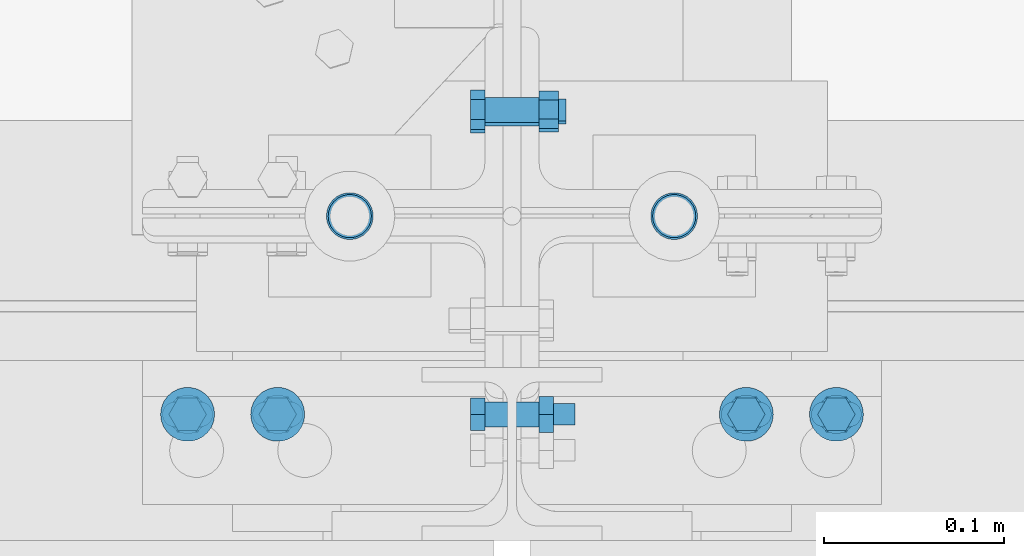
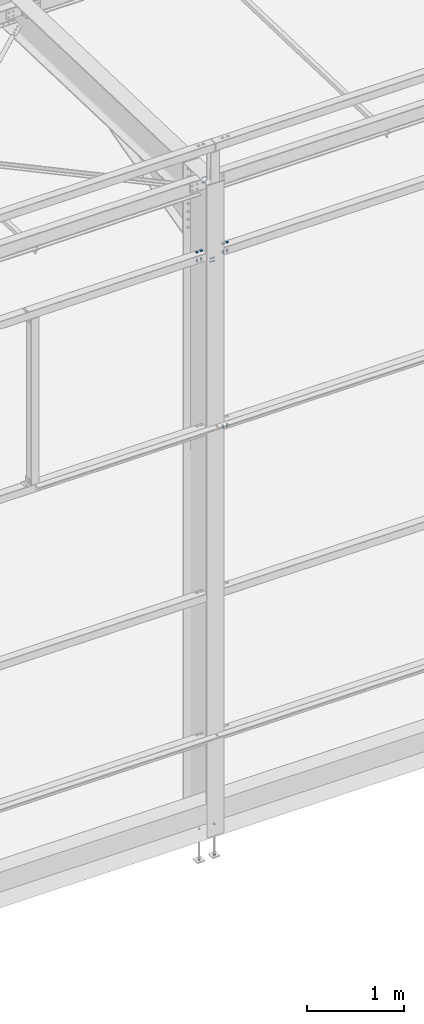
# One storey, part 207 of 362: 11 mechanical fasteners.
"""IFC2X3 building model written with IfcOpenShell, lengths in millimetres."""

from ifc_helpers import new_model, si_unit, frame, frame_2d, origin_with_axes, origin_2d_with_axis, place, context, subcontext, project, spatial, polyline, circle_curve, parameter, trimmed, segment, composite_curve, circle, outline, extrude, source, transform, mapped, material, type_object, element, save


model = new_model("IFC2X3")

# Units and contexts
model_context = context("Model", 3, precision=1e-05, world=origin_with_axes())
body_context = subcontext(model_context, "Body", "Model", "MODEL_VIEW")
ifc_project = project(units=[si_unit("LENGTHUNIT", "METRE", prefix="MILLI"), si_unit("AREAUNIT", "SQUARE_METRE"), si_unit("VOLUMEUNIT", "CUBIC_METRE"), si_unit("MASSUNIT", "GRAM", prefix="KILO"), si_unit("TIMEUNIT", "SECOND"), si_unit("PLANEANGLEUNIT", "RADIAN"), si_unit("SOLIDANGLEUNIT", "STERADIAN"), si_unit("THERMODYNAMICTEMPERATUREUNIT", "DEGREE_CELSIUS"), si_unit("LUMINOUSINTENSITYUNIT", "LUMEN")], contexts=[model_context])

# Site, building, storey
site_placement = place(None, origin_with_axes())
site = spatial("IfcSite", under=ifc_project, at=site_placement, Name="Undefined", CompositionType="ELEMENT")
building_placement = place(site_placement, origin_with_axes())
building = spatial("IfcBuilding", under=site, at=building_placement, Name="Undefined", CompositionType="ELEMENT")
storey_placement = place(building_placement, origin_with_axes())
storey = spatial("IfcBuildingStorey", under=building, at=storey_placement, Name="Undefined", CompositionType="ELEMENT", Elevation=0.0)

# Mechanical fasteners
ifc_material_1 = material(Name="6.8")
mechanical_fastener_type = type_object("IfcMechanicalFastenerType", Name="Bolt assembly")
shared_shape_1 = source(origin_with_axes(), body_context, "Body", "SweptSolid", [
    extrude(circle(Radius=15.0, at=origin_2d_with_axis()), frame((0.0, 0.0, 0.0), z_axis=(0.0, 1.0, 0.0), x_axis=(1.0, 0.0, 0.0)), (0.0, 0.0, 1.0), 4.1),
])
for number, where, z_axis, x_axis, name in (
    (1, (4000.00000272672, -110.000005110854, 7200.0), (0.0, 1.0, 0.0), (1.0, 0.0, 0.0), "Bolt assembly"),
    (2, (4360.00000272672, -110.000005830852, 7200.0), (0.0, -1.0, 0.0), (-1.0, 0.0, 0.0), "Bolt assembly"),
):
    element("IfcMechanicalFastener", number, at=place(storey_placement, frame(where, z_axis=z_axis, x_axis=x_axis)), inside=storey, type_object=mechanical_fastener_type, material=ifc_material_1, Name=name, NominalDiameter=30.0, NominalLength=4.0, context=body_context, shape_type="MappedRepresentation", body=[
        mapped(shared_shape_1, transform((0.0, 0.0, 0.0))),
        mapped(shared_shape_1, transform((49.9999999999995, 0.0, -3.63797880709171e-12))),
    ])
ifc_material_2 = material(Name="8.8-SB-ZINGUE")
shared_shape_2 = source(origin_with_axes(), body_context, "Body", "SweptSolid", [
    extrude(circle(Radius=7.0, at=origin_2d_with_axis()), frame((0.0, -3.89999843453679, 0.0), z_axis=(0.0, 1.0, 0.0), x_axis=(1.0, 0.0, 0.0)), (0.0, 0.0, 1.0), 4.0),
    extrude(outline(composite_curve([segment(polyline([(-7.0, 7.0), (7.0, 7.0)]), True, "CONTINUOUS"), segment(trimmed(circle_curve(frame_2d((7.0, 0.0), x_axis=(0.0, 1.0)), 7.0), [parameter(0.0)], [parameter(3.14159265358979)], False, "PARAMETER"), True, "CONTINUOUS"), segment(polyline([(7.0, -7.0), (-7.0, -7.0)]), True, "CONTINUOUS"), segment(trimmed(circle_curve(frame_2d((-7.0, 0.0), x_axis=(0.0, -1.0)), 7.0), [parameter(0.0)], [parameter(3.14159265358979)], False, "PARAMETER"), True, "DISCONTINUOUS")], self_intersect=False)), frame((0.0, -0.100011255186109, 0.0), z_axis=(0.0, 1.0, 0.0), x_axis=(1.0, 0.0, 0.0)), (0.0, 0.0, 1.0), 10.1),
    extrude(outline(polyline([(10.39230484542, 0.0), (5.19615242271, 9.00000000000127), (-5.19615242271, 9.00000000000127), (-10.39230484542, 0.0), (-5.19615242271, -9.00000000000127), (5.19615242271, -9.00000000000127), (10.39230484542, 0.0)])), frame((0.0, -11.9199984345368, 0.0), z_axis=(0.0, 1.0, 0.0), x_axis=(1.0, 0.0, 0.0)), (0.0, 0.0, 1.0), 7.92),
    extrude(circle(Radius=6.0, at=origin_2d_with_axis()), frame((0.0, -3.99999923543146, 0.0), z_axis=(0.0, 1.0, 0.0), x_axis=(1.0, 0.0, 0.0)), (0.0, 0.0, 1.0), 40.0),
    extrude(circle(Radius=10.8, at=origin_2d_with_axis()), frame((0.0, 10.0000000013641, 0.0), z_axis=(0.0, 1.0, 0.0), x_axis=(1.0, 0.0, 0.0)), (0.0, 0.0, 1.0), 3.96),
    extrude(outline(polyline([(11.5008173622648, 0.0), (5.7504086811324, 9.96000000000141), (-5.7504086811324, 9.96000000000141), (-11.5008173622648, 0.0), (-5.7504086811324, -9.96000000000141), (5.7504086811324, -9.96000000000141), (11.5008173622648, 0.0)])), frame((0.0, 13.96, 0.0), z_axis=(0.0, 1.0, 0.0), x_axis=(1.0, 0.0, 0.0)), (0.0, 0.0, 1.0), 7.92),
])
mechanical_fastener_1_placement = place(storey_placement, frame((4360.00000272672, -110.000005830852, 4900.0), z_axis=(0.0, -1.0, 0.0), x_axis=(-1.0, 0.0, 0.0)))
element("IfcMechanicalFastener", 3, at=mechanical_fastener_1_placement, inside=storey, type_object=mechanical_fastener_type, material=ifc_material_2, Name="Bolt assembly", NominalDiameter=12.0, NominalLength=40.0, context=body_context, shape_type="MappedRepresentation", body=[
    mapped(shared_shape_2, transform((0.0, 0.0, 0.0))),
    mapped(shared_shape_2, transform((49.9999999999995, 0.0, -3.63797880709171e-12))),
])
shared_shape_3 = source(origin_with_axes(), body_context, "Body", "SweptSolid", [
    extrude(circle(Radius=7.0, at=origin_2d_with_axis()), frame((0.0, -5.10036182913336, 0.0), z_axis=(0.0, 1.0, 0.0), x_axis=(1.0, 0.0, 0.0)), (0.0, 0.0, 1.0), 10.2),
    extrude(circle(Radius=7.0, at=origin_2d_with_axis()), frame((0.0, 4.9000000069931, 0.0), z_axis=(0.0, 1.0, 0.0), x_axis=(1.0, 0.0, 0.0)), (0.0, 0.0, 1.0), 10.1),
    extrude(circle(Radius=7.0, at=origin_2d_with_axis()), frame((0.0, -14.899999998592, 0.0), z_axis=(0.0, 1.0, 0.0), x_axis=(1.0, 0.0, 0.0)), (0.0, 0.0, 1.0), 10.0),
    extrude(outline(polyline([(10.39230484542, 0.0), (5.19615242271, 9.00000000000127), (-5.19615242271, 9.00000000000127), (-10.39230484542, 0.0), (-5.19615242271, -9.00000000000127), (5.19615242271, -9.00000000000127), (10.39230484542, 0.0)])), frame((0.0, -22.919999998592, 0.0), z_axis=(0.0, 1.0, 0.0), x_axis=(1.0, 0.0, 0.0)), (0.0, 0.0, 1.0), 7.92),
    extrude(circle(Radius=6.0, at=origin_2d_with_axis()), frame((0.0, -14.999999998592, 0.0), z_axis=(0.0, 1.0, 0.0), x_axis=(1.0, 0.0, 0.0)), (0.0, 0.0, 1.0), 50.0),
    extrude(outline(polyline([(11.5008173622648, 0.0), (5.7504086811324, 9.96000000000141), (-5.7504086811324, 9.96000000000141), (-11.5008173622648, 0.0), (-5.7504086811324, -9.96000000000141), (5.7504086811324, -9.96000000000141), (11.5008173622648, 0.0)])), frame((0.0, 15.0000000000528, 0.0), z_axis=(0.0, 1.0, 0.0), x_axis=(1.0, 0.0, 0.0)), (0.0, 0.0, 1.0), 7.92),
])
mechanical_fastener_2_placement = place(storey_placement, frame((4180.00000529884, -110.00000764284, 7020.0), z_axis=(0.0, 1.0, 0.0), x_axis=(0.0, 0.0, 1.0)))
element("IfcMechanicalFastener", 4, at=mechanical_fastener_2_placement, inside=storey, type_object=mechanical_fastener_type, material=ifc_material_2, Name="Bolt assembly", NominalDiameter=12.0, NominalLength=50.0, context=body_context, shape_type="MappedRepresentation", body=[
    mapped(shared_shape_3, transform((0.0, 0.0, 0.0))),
    mapped(shared_shape_3, transform((40.0, 0.0, 0.0))),
])
shared_shape_4 = source(origin_with_axes(), body_context, "Body", "SweptSolid", [
    extrude(circle(Radius=7.0, at=origin_2d_with_axis()), frame((0.0, -3.89999843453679, 0.0), z_axis=(0.0, 1.0, 0.0), x_axis=(1.0, 0.0, 0.0)), (0.0, 0.0, 1.0), 4.0),
    extrude(outline(composite_curve([segment(polyline([(-7.0, 7.0), (7.0, 7.0)]), True, "CONTINUOUS"), segment(trimmed(circle_curve(frame_2d((7.0, 0.0), x_axis=(0.0, 1.0)), 7.0), [parameter(0.0)], [parameter(3.14159265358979)], False, "PARAMETER"), True, "CONTINUOUS"), segment(polyline([(7.0, -7.0), (-7.0, -7.0)]), True, "CONTINUOUS"), segment(trimmed(circle_curve(frame_2d((-7.0, 0.0), x_axis=(0.0, -1.0)), 7.0), [parameter(0.0)], [parameter(3.14159265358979)], False, "PARAMETER"), True, "DISCONTINUOUS")], self_intersect=False)), frame((0.0, -0.100011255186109, 0.0), z_axis=(0.0, 1.0, 0.0), x_axis=(1.0, 0.0, 0.0)), (0.0, 0.0, 1.0), 10.1),
    extrude(outline(polyline([(10.39230484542, 0.0), (5.19615242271, 9.00000000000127), (-5.19615242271, 9.00000000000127), (-10.39230484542, 0.0), (-5.19615242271, -9.00000000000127), (5.19615242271, -9.00000000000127), (10.39230484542, 0.0)])), frame((0.0, -11.9199984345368, 0.0), z_axis=(0.0, 1.0, 0.0), x_axis=(1.0, 0.0, 0.0)), (0.0, 0.0, 1.0), 7.92),
    extrude(circle(Radius=6.0, at=origin_2d_with_axis()), frame((0.0, -3.99999923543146, 0.0), z_axis=(0.0, 1.0, 0.0), x_axis=(1.0, 0.0, 0.0)), (0.0, 0.0, 1.0), 40.0),
    extrude(circle(Radius=10.8, at=origin_2d_with_axis()), frame((0.0, 10.0000000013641, 0.0), z_axis=(0.0, 1.0, 0.0), x_axis=(1.0, 0.0, 0.0)), (0.0, 0.0, 1.0), 3.96),
    extrude(outline(polyline([(11.5008173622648, 0.0), (5.7504086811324, 9.96000000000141), (-5.7504086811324, 9.96000000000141), (-11.5008173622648, 0.0), (-5.7504086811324, -9.96000000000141), (5.7504086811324, -9.96000000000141), (11.5008173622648, 0.0)])), frame((0.0, 13.96, 0.0), z_axis=(0.0, 1.0, 0.0), x_axis=(1.0, 0.0, 0.0)), (0.0, 0.0, 1.0), 7.92),
])
mechanical_fastener_3_placement = place(storey_placement, frame((4000.00000272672, -110.000005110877, 7100.0), z_axis=(0.0, 1.0, 0.0), x_axis=(1.0, 0.0, 0.0)))
element("IfcMechanicalFastener", 5, at=mechanical_fastener_3_placement, inside=storey, type_object=mechanical_fastener_type, material=ifc_material_2, Name="Bolt assembly", NominalDiameter=12.0, NominalLength=40.0, context=body_context, shape_type="MappedRepresentation", body=[
    mapped(shared_shape_4, transform((0.0, 0.0, 0.0))),
    mapped(shared_shape_4, transform((49.9999999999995, 0.0, -3.63797880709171e-12))),
])
shared_shape_5 = source(origin_with_axes(), body_context, "Body", "SweptSolid", [
    extrude(circle(Radius=7.0, at=origin_2d_with_axis()), frame((0.0, -3.89999843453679, 0.0), z_axis=(0.0, 1.0, 0.0), x_axis=(1.0, 0.0, 0.0)), (0.0, 0.0, 1.0), 4.0),
    extrude(outline(composite_curve([segment(polyline([(-7.0, 7.0), (7.0, 7.0)]), True, "CONTINUOUS"), segment(trimmed(circle_curve(frame_2d((7.0, 0.0), x_axis=(0.0, 1.0)), 7.0), [parameter(0.0)], [parameter(3.14159265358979)], False, "PARAMETER"), True, "CONTINUOUS"), segment(polyline([(7.0, -7.0), (-7.0, -7.0)]), True, "CONTINUOUS"), segment(trimmed(circle_curve(frame_2d((-7.0, 0.0), x_axis=(0.0, -1.0)), 7.0), [parameter(0.0)], [parameter(3.14159265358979)], False, "PARAMETER"), True, "DISCONTINUOUS")], self_intersect=False)), frame((0.0, -0.100011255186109, 0.0), z_axis=(0.0, 1.0, 0.0), x_axis=(1.0, 0.0, 0.0)), (0.0, 0.0, 1.0), 10.1),
    extrude(outline(polyline([(10.39230484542, 0.0), (5.19615242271, 9.00000000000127), (-5.19615242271, 9.00000000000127), (-10.39230484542, 0.0), (-5.19615242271, -9.00000000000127), (5.19615242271, -9.00000000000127), (10.39230484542, 0.0)])), frame((0.0, -11.9199984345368, 0.0), z_axis=(0.0, 1.0, 0.0), x_axis=(1.0, 0.0, 0.0)), (0.0, 0.0, 1.0), 7.92),
    extrude(circle(Radius=6.0, at=origin_2d_with_axis()), frame((0.0, -3.99999923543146, 0.0), z_axis=(0.0, 1.0, 0.0), x_axis=(1.0, 0.0, 0.0)), (0.0, 0.0, 1.0), 40.0),
    extrude(circle(Radius=10.8, at=origin_2d_with_axis()), frame((0.0, 10.0000000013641, 0.0), z_axis=(0.0, 1.0, 0.0), x_axis=(1.0, 0.0, 0.0)), (0.0, 0.0, 1.0), 3.96),
    extrude(outline(polyline([(11.5008173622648, 0.0), (5.7504086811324, 9.96000000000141), (-5.7504086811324, 9.96000000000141), (-11.5008173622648, 0.0), (-5.7504086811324, -9.96000000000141), (5.7504086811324, -9.96000000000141), (11.5008173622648, 0.0)])), frame((0.0, 13.96, 0.0), z_axis=(0.0, 1.0, 0.0), x_axis=(1.0, 0.0, 0.0)), (0.0, 0.0, 1.0), 7.92),
])
mechanical_fastener_4_placement = place(storey_placement, frame((4360.00000272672, -110.000005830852, 7100.0), z_axis=(0.0, -1.0, 0.0), x_axis=(-1.0, 0.0, 0.0)))
element("IfcMechanicalFastener", 6, at=mechanical_fastener_4_placement, inside=storey, type_object=mechanical_fastener_type, material=ifc_material_2, Name="Bolt assembly", NominalDiameter=12.0, NominalLength=40.0, context=body_context, shape_type="MappedRepresentation", body=[
    mapped(shared_shape_5, transform((0.0, 0.0, 0.0))),
    mapped(shared_shape_5, transform((49.9999999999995, 0.0, -3.63797880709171e-12))),
])
ifc_material_3 = material(Name="8.8")
shared_shape_6 = source(origin_with_axes(), body_context, "Body", "SweptSolid", [
    extrude(circle(Radius=7.0, at=origin_2d_with_axis()), frame((0.0, -5.1000000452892, 0.0), z_axis=(0.0, 1.0, 0.0), x_axis=(1.0, 0.0, 0.0)), (0.0, 0.0, 1.0), 10.2),
    extrude(circle(Radius=7.0, at=origin_2d_with_axis()), frame((0.0, 4.9000000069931, 0.0), z_axis=(0.0, 1.0, 0.0), x_axis=(1.0, 0.0, 0.0)), (0.0, 0.0, 1.0), 10.1),
    extrude(circle(Radius=7.0, at=origin_2d_with_axis()), frame((0.0, -14.899999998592, 0.0), z_axis=(0.0, 1.0, 0.0), x_axis=(1.0, 0.0, 0.0)), (0.0, 0.0, 1.0), 10.0),
    extrude(outline(polyline([(10.96965511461, 0.0), (5.484827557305, 9.50000000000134), (-5.484827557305, 9.50000000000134), (-10.96965511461, 0.0), (-5.484827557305, -9.50000000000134), (5.484827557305, -9.50000000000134), (10.96965511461, 0.0)])), frame((0.0, -22.9999999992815, 0.0), z_axis=(0.0, 1.0, 0.0), x_axis=(1.0, 0.0, 0.0)), (0.0, 0.0, 1.0), 8.0),
    extrude(circle(Radius=6.0, at=origin_2d_with_axis()), frame((0.0, -14.999999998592, 0.0), z_axis=(0.0, 1.0, 0.0), x_axis=(1.0, 0.0, 0.0)), (0.0, 0.0, 1.0), 45.0),
    extrude(outline(polyline([(10.39230484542, 0.0), (5.19615242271, 9.00000000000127), (-5.19615242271, 9.00000000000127), (-10.39230484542, 0.0), (-5.19615242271, -9.00000000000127), (5.19615242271, -9.00000000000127), (10.39230484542, 0.0)])), frame((0.0, 15.0000000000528, 0.0), z_axis=(0.0, 1.0, 0.0), x_axis=(1.0, 0.0, 0.0)), (0.0, 0.0, 1.0), 10.8),
])
mechanical_fastener_5_placement = place(storey_placement, frame((4180.0, 57.9723361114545, 7948.13044918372), z_axis=(7.58071938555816e-11, 0.0314107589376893, 0.999506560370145), x_axis=(0.0, -0.999506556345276, 0.031410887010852)))
element("IfcMechanicalFastener", 7, at=mechanical_fastener_5_placement, inside=storey, type_object=mechanical_fastener_type, material=ifc_material_3, Name="Bolt assembly", NominalDiameter=12.0, NominalLength=45.0, context=body_context, shape_type="MappedRepresentation", body=[
    mapped(shared_shape_6, transform((0.0, 0.0, -30.0))),
    mapped(shared_shape_6, transform((0.0, 0.0, 30.0))),
])
shared_shape_7 = source(origin_with_axes(), body_context, "Body", "SweptSolid", [
    extrude(circle(Radius=13.0, at=origin_2d_with_axis()), frame((0.0, -14.999999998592, 0.0), z_axis=(0.0, 1.0, 0.0), x_axis=(1.0, 0.0, 0.0)), (0.0, 0.0, 1.0), 15.1),
])
for number, where, z_axis, x_axis, name in (
    (8, (4089.99715044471, 0.0, -185.0), (0.0, -1.0, 0.0), (-1.0, 0.0, 0.0), "Bolt assembly"),
    (9, (4269.99715044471, 0.0, -185.0), (0.0, -1.0, 0.0), (-1.0, 0.0, 0.0), "Bolt assembly"),
):
    element("IfcMechanicalFastener", number, at=place(storey_placement, frame(where, z_axis=z_axis, x_axis=x_axis)), inside=storey, type_object=mechanical_fastener_type, material=ifc_material_1, Name=name, NominalDiameter=24.0, NominalLength=15.0, context=body_context, shape_type="MappedRepresentation", body=[
        mapped(shared_shape_7, transform((0.0, 0.0, 0.0))),
    ])
shared_shape_8 = source(origin_with_axes(), body_context, "Body", "SweptSolid", [
    extrude(circle(Radius=12.0, at=origin_2d_with_axis()), frame((0.0, -14.999999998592, 0.0), z_axis=(0.0, 1.0, 0.0), x_axis=(1.0, 0.0, 0.0)), (0.0, 0.0, 1.0), 15.1),
])
for number, where, z_axis, x_axis, name in (
    (10, (4089.99715044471, 0.0, -580.0), (0.0, -1.0, 0.0), (-1.0, 0.0, 0.0), "Bolt assembly"),
    (11, (4269.99715044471, 0.0, -580.0), (0.0, -1.0, 0.0), (-1.0, 0.0, 0.0), "Bolt assembly"),
):
    element("IfcMechanicalFastener", number, at=place(storey_placement, frame(where, z_axis=z_axis, x_axis=x_axis)), inside=storey, type_object=mechanical_fastener_type, material=ifc_material_1, Name=name, NominalDiameter=22.0, NominalLength=15.0, context=body_context, shape_type="MappedRepresentation", body=[
        mapped(shared_shape_8, transform((0.0, 0.0, 0.0))),
    ])

save(model, "model.ifc")
